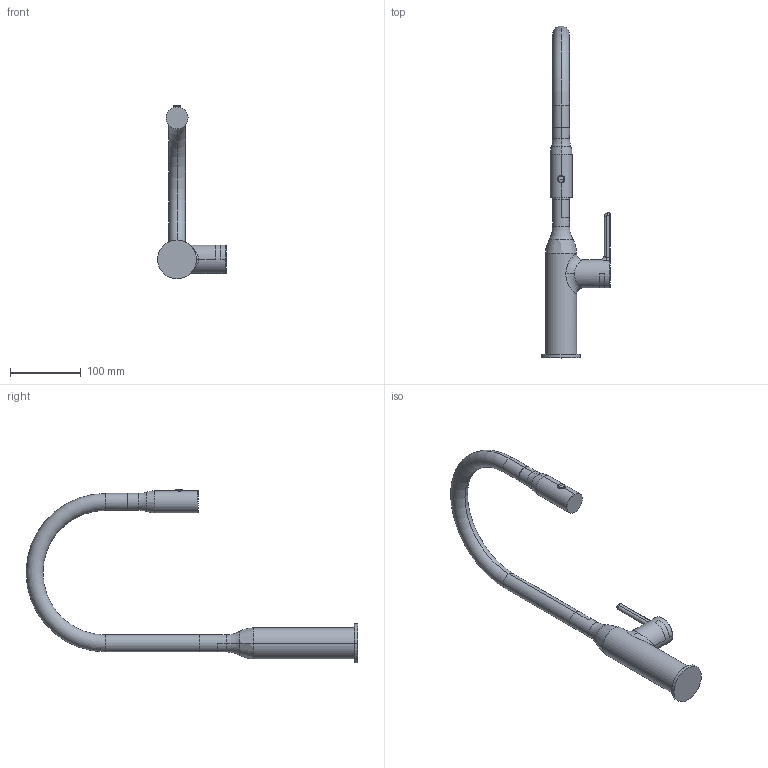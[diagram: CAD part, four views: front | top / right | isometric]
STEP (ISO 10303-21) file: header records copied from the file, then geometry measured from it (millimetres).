
FILE_DESCRIPTION((''),'2;1');
FILE_NAME('10_261_002_XXX','2012-01-05T',('ahf'),(''),'PRO/ENGINEER BY PARAMETRIC TECHNOLOGY CORPORATION, 2011080','PRO/ENGINEER BY PARAMETRIC TECHNOLOGY CORPORATION, 2011080','');
FILE_SCHEMA(('AUTOMOTIVE_DESIGN_CC2 { 1 2 10303 214 -1 1 5 2 }'));
Length unit declared in the file: millimetre
Products named in the file (1): 10_261_002_XXX
Bounding box: 97.26 x 469.15 x 245.55 mm (x, y, z)
Volume: 633043 mm3; surface area: 84972.3 mm2
Topology: 1 solids, 1 shells, 69 faces, 170 edges, 106 vertices
Faces by surface type: cylinder 28, plane 14, torus 14, bspline 11, sphere 2
Entity records: 3535 total; most frequent: CARTESIAN_POINT 1373, DIRECTION 355, ORIENTED_EDGE 336, EDGE_CURVE 168, AXIS2_PLACEMENT_3D 150, VERTEX_POINT 106, CIRCLE 92, EDGE_LOOP 74
